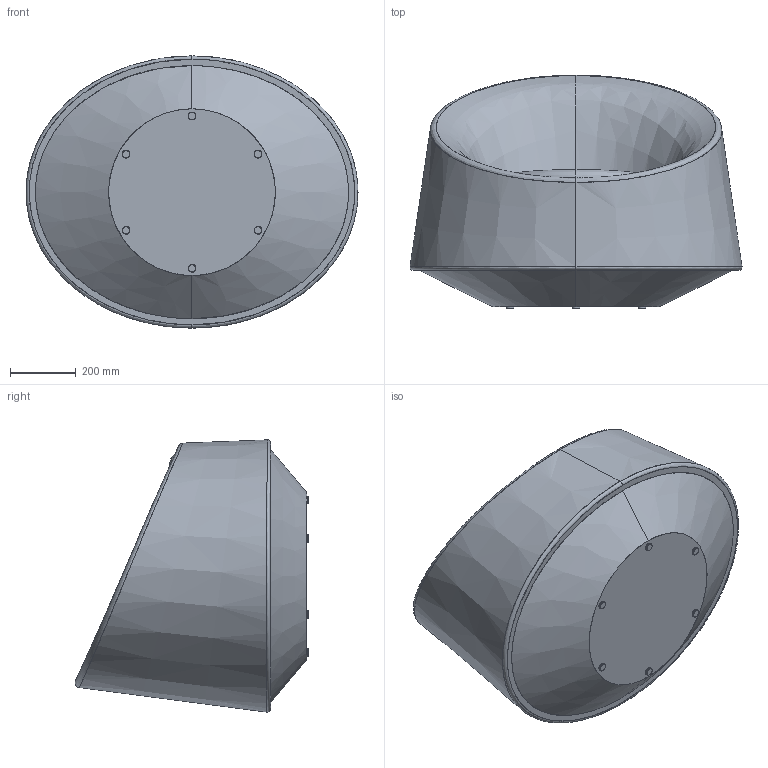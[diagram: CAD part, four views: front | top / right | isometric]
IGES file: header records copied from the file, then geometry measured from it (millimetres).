
Start section: SolidWorks IGES file using analytic representation for surfaces
Global section: file name: W:\design\3D 2D-PRODOTTI-AGGIORNATI\PEARSON-LLOYD\CRYSTAL\IGS\CRYSTAL ROTONDA.IGS; native system: SolidWorks 2010; preprocessor: SolidWorks 2010; author: PC20; date: 140908.192241; units: millimetre
Bounding box: 1006.61 x 708.5 x 825.5 mm (x, y, z)
Surface area: 4322919 mm2 (no closed solid volume)
Topology: 0 solids, 0 shells, 128 faces, 3765 edges, 4256 vertices
Faces by surface type: bspline 68, revolution 60
